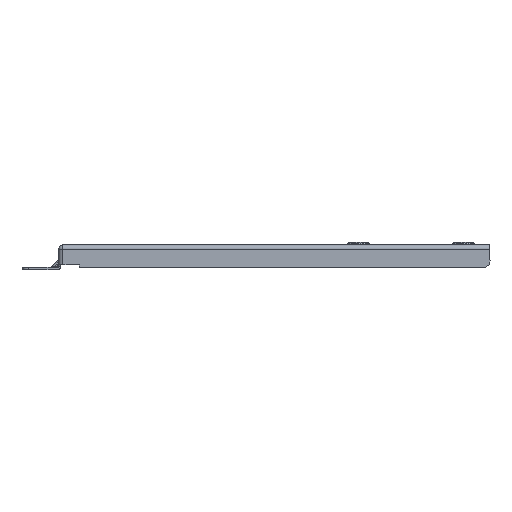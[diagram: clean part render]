
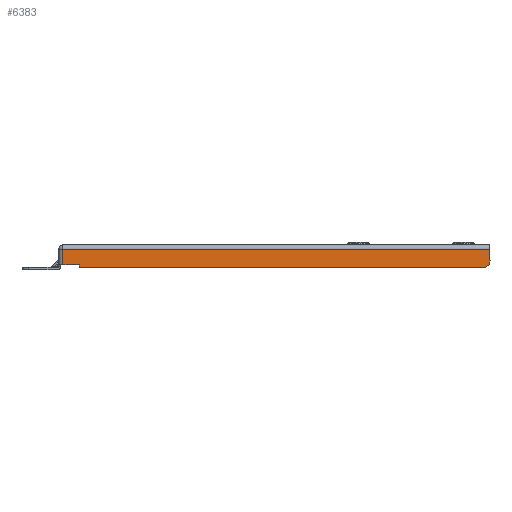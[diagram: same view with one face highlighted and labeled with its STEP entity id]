
A CAD part, front view. The second image highlights one B-rep face of the part: STEP entity #6383.
In plain terms, the highlighted planar face has unit normal (0, -1, 0).
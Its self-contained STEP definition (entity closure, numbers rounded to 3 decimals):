
#6353=AXIS2_PLACEMENT_3D('Plane Axis2P3D',#6350,#6351,#6352) ;
#6357=AXIS2_PLACEMENT_3D('Circle Axis2P3D',#6355,#6356,$) ;
#4992=CARTESIAN_POINT('Line Origine',(1039.999,425.001,36.994)) ;
#4996=CARTESIAN_POINT('Vertex',(1039.999,425.001,26.494)) ;
#4998=CARTESIAN_POINT('Vertex',(1039.999,425.001,45.494)) ;
#5145=CARTESIAN_POINT('Vertex',(1059.999,425.001,26.494)) ;
#5148=CARTESIAN_POINT('Line Origine',(1049.999,425.001,26.494)) ;
#5181=CARTESIAN_POINT('Vertex',(1059.999,425.001,22.994)) ;
#5184=CARTESIAN_POINT('Line Origine',(1059.999,425.001,24.744)) ;
#5222=CARTESIAN_POINT('Vertex',(1553.499,425.001,23.001)) ;
#5227=CARTESIAN_POINT('Line Origine',(1306.749,425.001,22.998)) ;
#6350=CARTESIAN_POINT('Axis2P3D Location',(1561.499,425.001,20.001)) ;
#6355=CARTESIAN_POINT('Axis2P3D Location',(1553.499,425.001,31.001)) ;
#6359=CARTESIAN_POINT('Vertex',(1561.499,425.001,31.001)) ;
#6362=CARTESIAN_POINT('Line Origine',(1561.499,425.001,38.251)) ;
#6366=CARTESIAN_POINT('Vertex',(1561.499,425.001,45.501)) ;
#6369=CARTESIAN_POINT('Line Origine',(1300.749,425.001,45.498)) ;
#4993=DIRECTION('Vector Direction',(0.,0.,1.)) ;
#5149=DIRECTION('Vector Direction',(-1.,0.,0.)) ;
#5185=DIRECTION('Vector Direction',(0.,0.,1.)) ;
#5228=DIRECTION('Vector Direction',(-1.,0.,0.)) ;
#6351=DIRECTION('Axis2P3D Direction',(0.,1.,0.)) ;
#6352=DIRECTION('Axis2P3D XDirection',(-1.,0.,0.)) ;
#6356=DIRECTION('Axis2P3D Direction',(0.,1.,0.)) ;
#6363=DIRECTION('Vector Direction',(0.,0.,1.)) ;
#6370=DIRECTION('Vector Direction',(1.,0.,0.)) ;
#4994=VECTOR('Line Direction',#4993,1.) ;
#5150=VECTOR('Line Direction',#5149,1.) ;
#5186=VECTOR('Line Direction',#5185,1.) ;
#5229=VECTOR('Line Direction',#5228,1.) ;
#6364=VECTOR('Line Direction',#6363,1.) ;
#6371=VECTOR('Line Direction',#6370,1.) ;
#6375=ORIENTED_EDGE('',*,*,#5000,.F.) ;
#6376=ORIENTED_EDGE('',*,*,#5152,.F.) ;
#6377=ORIENTED_EDGE('',*,*,#5188,.F.) ;
#6378=ORIENTED_EDGE('',*,*,#5231,.F.) ;
#6379=ORIENTED_EDGE('',*,*,#6361,.F.) ;
#6380=ORIENTED_EDGE('',*,*,#6368,.T.) ;
#6381=ORIENTED_EDGE('',*,*,#6373,.F.) ;
#6383=ADVANCED_FACE('interfacebia.1\\20mm--\X2\526F9A7E624B52A86807914D\X0\',(#6382),#6354,.F.) ;
#6358=CIRCLE('generated circle',#6357,8.) ;
#5000=EDGE_CURVE('',#4997,#4999,#4995,.T.) ;
#5152=EDGE_CURVE('',#5146,#4997,#5151,.T.) ;
#5188=EDGE_CURVE('',#5182,#5146,#5187,.T.) ;
#5231=EDGE_CURVE('',#5223,#5182,#5230,.T.) ;
#6361=EDGE_CURVE('',#6360,#5223,#6358,.T.) ;
#6368=EDGE_CURVE('',#6360,#6367,#6365,.T.) ;
#6373=EDGE_CURVE('',#4999,#6367,#6372,.T.) ;
#6374=EDGE_LOOP('',(#6375,#6376,#6377,#6378,#6379,#6380,#6381)) ;
#6382=FACE_OUTER_BOUND('',#6374,.T.) ;
#4995=LINE('Line',#4992,#4994) ;
#5151=LINE('Line',#5148,#5150) ;
#5187=LINE('Line',#5184,#5186) ;
#5230=LINE('Line',#5227,#5229) ;
#6365=LINE('Line',#6362,#6364) ;
#6372=LINE('Line',#6369,#6371) ;
#6354=PLANE('Plane',#6353) ;
#4997=VERTEX_POINT('',#4996) ;
#4999=VERTEX_POINT('',#4998) ;
#5146=VERTEX_POINT('',#5145) ;
#5182=VERTEX_POINT('',#5181) ;
#5223=VERTEX_POINT('',#5222) ;
#6360=VERTEX_POINT('',#6359) ;
#6367=VERTEX_POINT('',#6366) ;
